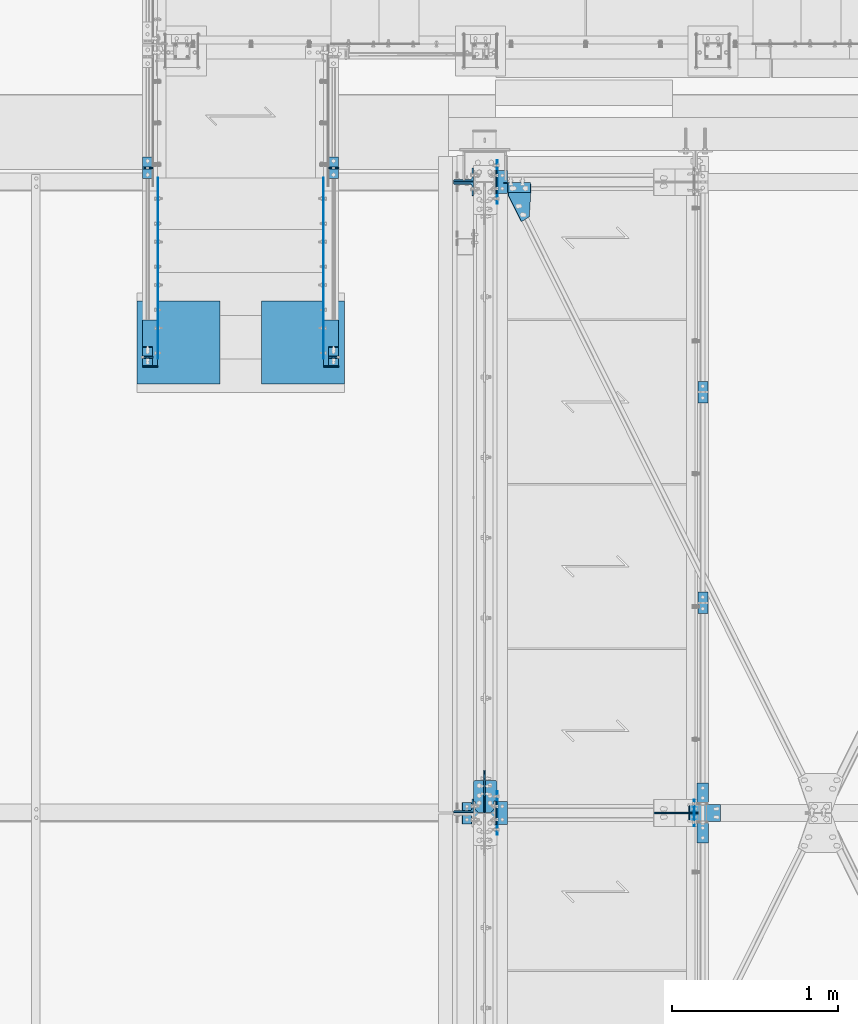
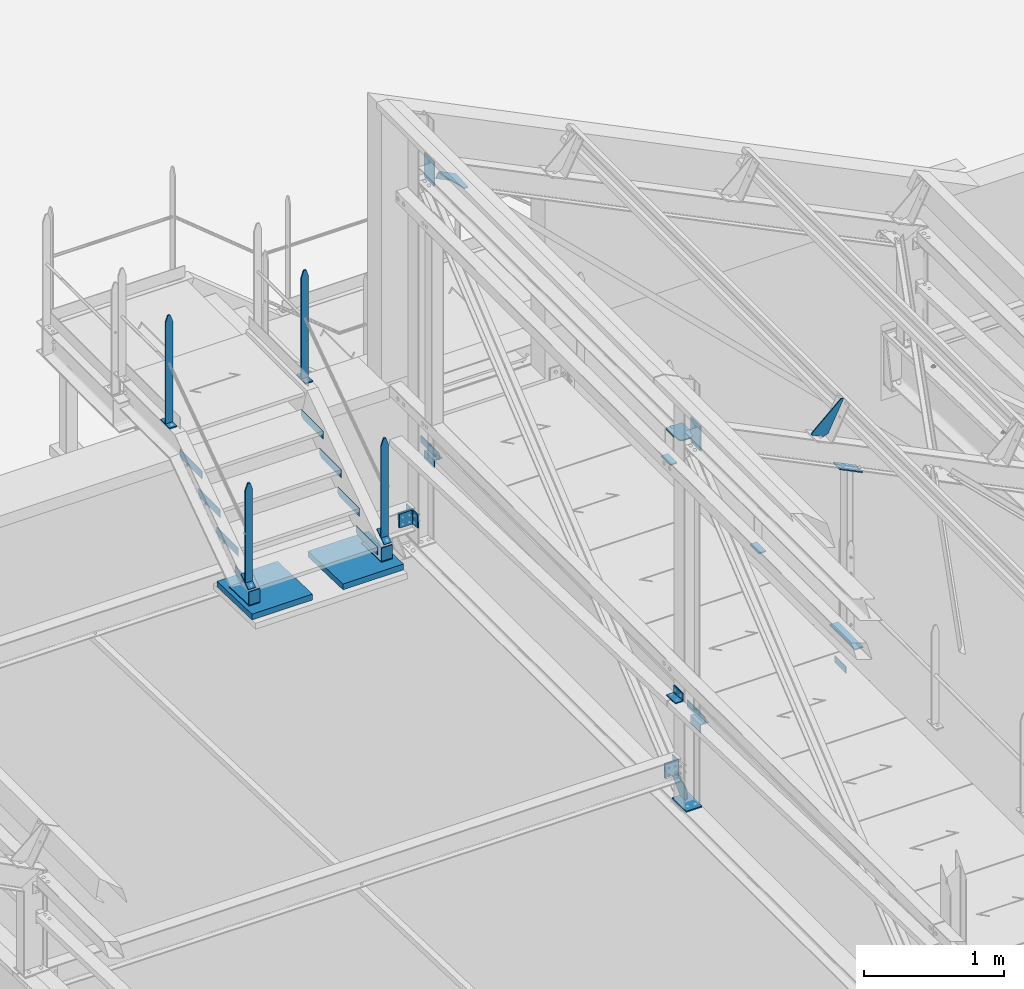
# One storey, part 111 of 362: 36 beams, 7 members, 26 elements without a shape of their own.
"""IFC2X3 building model written with IfcOpenShell, lengths in millimetres."""

from ifc_helpers import new_model, si_unit, frame, frame_2d, origin_with_axes, origin_2d_with_axis, place, context, subcontext, project, spatial, polyline, circle_curve, parameter, trimmed, segment, composite_curve, rectangle, l_section, outline, extrude, clip, halfspace, material, type_object, element, aggregate, save


model = new_model("IFC2X3")

# Units and contexts
model_context = context("Model", 3, precision=1e-05, world=origin_with_axes())
body_context = subcontext(model_context, "Body", "Model", "MODEL_VIEW")
ifc_project = project(units=[si_unit("LENGTHUNIT", "METRE", prefix="MILLI"), si_unit("AREAUNIT", "SQUARE_METRE"), si_unit("VOLUMEUNIT", "CUBIC_METRE"), si_unit("MASSUNIT", "GRAM", prefix="KILO"), si_unit("TIMEUNIT", "SECOND"), si_unit("PLANEANGLEUNIT", "RADIAN"), si_unit("SOLIDANGLEUNIT", "STERADIAN"), si_unit("THERMODYNAMICTEMPERATUREUNIT", "DEGREE_CELSIUS"), si_unit("LUMINOUSINTENSITYUNIT", "LUMEN")], contexts=[model_context])

# Site, building, storey
site_placement = place(None, origin_with_axes())
site = spatial("IfcSite", under=ifc_project, at=site_placement, Name="Undefined", CompositionType="ELEMENT")
building_placement = place(site_placement, origin_with_axes())
building = spatial("IfcBuilding", under=site, at=building_placement, Name="Undefined", CompositionType="ELEMENT")
storey_placement = place(building_placement, origin_with_axes())
storey = spatial("IfcBuildingStorey", under=building, at=storey_placement, Name="Undefined", CompositionType="ELEMENT", Elevation=0.0)

# Assembly, beams
assembly_1_placement = place(storey_placement, origin_with_axes())
assembly_1 = element("IfcElementAssembly", 1, at=assembly_1_placement, inside=storey, Name="MAIN COURANTE", AssemblyPlace="NOTDEFINED", PredefinedType="NOTDEFINED")
ifc_material_1 = material(Name="Undefined/S235-E24")
beam_type_1 = type_object("IfcBeamType", Name="PL10*60", PredefinedType="NOTDEFINED")
beam_1_placement = place(assembly_1_placement, frame((33369.9936634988, 15350.0038033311, 8915.0), z_axis=(1.0, 0.0, 0.0), x_axis=(0.0, -1.0, 0.0)))
beam_1 = element("IfcBeam", 2, at=beam_1_placement, type_object=beam_type_1, material=ifc_material_1, Name="PLATINE", ObjectType="PL10*60", context=body_context, shape_type="SweptSolid", body=[
    extrude(rectangle(XDim=10.0, YDim=60.0, at=origin_2d_with_axis()), frame((130.0, 0.0, 0.0), z_axis=(-1.0, 0.0, 0.0), x_axis=(0.0, -1.0, 0.0)), (0.0, 0.0, 1.0), 130.0),
])
beam_2_placement = place(assembly_1_placement, frame((33369.9937887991, 15285.0038033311, 9857.59999847), z_axis=(0.999999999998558, -1.69800000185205e-06, 0.0), x_axis=(0.0, 0.0, -1.0)))
beam_2 = element("IfcBeam", 3, at=beam_2_placement, type_object=beam_type_1, material=ifc_material_1, Name="MONTANT", ObjectType="PL10*60", context=body_context, shape_type="Clipping", body=[
    clip(clip(extrude(rectangle(XDim=10.0, YDim=60.0, at=origin_2d_with_axis()), frame((937.599998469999, 0.0, 0.0), z_axis=(-1.0, 0.0, 0.0), x_axis=(0.0, -1.0, 0.0)), (0.0, 0.0, 1.0), 937.6), halfspace(frame((-119.999937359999, 4.99999999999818, -30.0), z_axis=(-0.316227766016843, 1.98085072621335e-06, 0.948683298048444), x_axis=(0.948683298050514, 0.0, 0.316227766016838)), False)), halfspace(frame((60.0, 5.0, -30.0), z_axis=(-0.316227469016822, -1.98084886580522e-06, -0.948683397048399), x_axis=(-0.948683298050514, 0.0, 0.316227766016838)), False)),
])

assembly_2_placement = place(storey_placement, origin_with_axes())
assembly_2 = element("IfcElementAssembly", 4, at=assembly_2_placement, inside=storey, Name="MAIN COURANTE", AssemblyPlace="NOTDEFINED", PredefinedType="NOTDEFINED")
beam_3_placement = place(assembly_2_placement, frame((32249.9863365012, 15350.0038033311, 8915.0), z_axis=(-1.0, 0.0, 0.0), x_axis=(0.0, -1.0, 0.0)))
beam_3 = element("IfcBeam", 5, at=beam_3_placement, type_object=beam_type_1, material=ifc_material_1, Name="PLATINE", ObjectType="PL10*60", context=body_context, shape_type="SweptSolid", body=[
    extrude(rectangle(XDim=10.0, YDim=60.0, at=origin_2d_with_axis()), frame((130.0, 0.0, 0.0), z_axis=(-1.0, 0.0, 0.0), x_axis=(0.0, -1.0, 0.0)), (0.0, 0.0, 1.0), 130.0),
])
beam_4_placement = place(assembly_2_placement, frame((32249.9862112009, 15285.0038033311, 9857.59999847), z_axis=(-0.99999999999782, -2.08799999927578e-06, 0.0), x_axis=(0.0, 0.0, -1.0)))
beam_4 = element("IfcBeam", 6, at=beam_4_placement, type_object=beam_type_1, material=ifc_material_1, Name="MONTANT", ObjectType="PL10*60", context=body_context, shape_type="Clipping", body=[
    clip(clip(extrude(rectangle(XDim=10.0, YDim=60.0, at=origin_2d_with_axis()), frame((937.599998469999, 0.0, 0.0), z_axis=(-1.0, 0.0, 0.0), x_axis=(0.0, -1.0, 0.0)), (0.0, 0.0, 1.0), 937.6), halfspace(frame((-119.999937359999, -4.99999999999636, -30.0), z_axis=(-0.316227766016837, -1.98085072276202e-06, 0.948683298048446), x_axis=(-6.26399999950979e-06, 0.999999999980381, -3.63797880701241e-15)), False)), halfspace(frame((60.0, -5.0, -30.0), z_axis=(-0.316227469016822, 1.98084886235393e-06, -0.948683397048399), x_axis=(6.26399999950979e-06, 0.999999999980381, -3.63797880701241e-15)), False)),
])
beam_5_placement = place(assembly_2_placement, frame((32249.9862112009, 14144.9998536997, 9085.35366746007), z_axis=(-0.99999999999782, -2.08799999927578e-06, 0.0), x_axis=(0.0, 0.0, -1.0)))
beam_5 = element("IfcBeam", 7, at=beam_5_placement, type_object=beam_type_1, material=ifc_material_1, Name="MONTANT", ObjectType="PL10*60", context=body_context, shape_type="Clipping", body=[
    clip(clip(clip(clip(extrude(rectangle(XDim=10.0, YDim=60.0, at=origin_2d_with_axis()), frame((863.260305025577, 0.0, 0.0), z_axis=(-1.0, 0.0, 0.0), x_axis=(0.0, -1.0, 0.0)), (0.0, 0.0, 1.0), 870.25), halfspace(frame((-119.999937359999, -4.99999999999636, -30.0), z_axis=(-0.316227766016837, -1.98085072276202e-06, 0.948683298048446), x_axis=(-6.26399999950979e-06, 0.999999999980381, -3.63797880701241e-15)), False)), halfspace(frame((60.0, -5.0, -30.0), z_axis=(-0.316227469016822, 1.98084886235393e-06, -0.948683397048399), x_axis=(6.26399999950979e-06, 0.999999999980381, -3.63797880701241e-15)), False)), halfspace(frame((851.815615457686, -6.43113634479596, -0.000138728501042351), z_axis=(0.822192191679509, -0.569209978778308, -6.66011673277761e-07), x_axis=(0.569209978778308, 0.822192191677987, 1.71673729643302e-06)), False)), halfspace(frame((-7.87605918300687, -11.3765299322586, -0.000149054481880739), z_axis=(0.822192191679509, -0.569209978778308, -6.66011673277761e-07), x_axis=(0.569209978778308, 0.822192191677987, 1.71673729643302e-06)), True)),
])

# Beam
beam_6_placement = place(assembly_1_placement, frame((33369.9937887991, 14144.9998536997, 9085.35366746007), z_axis=(0.999999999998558, -1.69800000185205e-06, 0.0), x_axis=(0.0, 0.0, -1.0)))
beam_6 = element("IfcBeam", 8, at=beam_6_placement, type_object=beam_type_1, material=ifc_material_1, Name="MONTANT", ObjectType="PL10*60", context=body_context, shape_type="Clipping", body=[
    clip(clip(clip(clip(extrude(rectangle(XDim=10.0, YDim=60.0, at=origin_2d_with_axis()), frame((863.260305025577, 0.0, 0.0), z_axis=(-1.0, 0.0, 0.0), x_axis=(0.0, -1.0, 0.0)), (0.0, 0.0, 1.0), 870.25), halfspace(frame((-119.999937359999, 4.99999999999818, -30.0), z_axis=(-0.316227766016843, 1.98085072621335e-06, 0.948683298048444), x_axis=(0.948683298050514, 0.0, 0.316227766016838)), False)), halfspace(frame((60.0, 5.0, -30.0), z_axis=(-0.316227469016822, -1.98084886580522e-06, -0.948683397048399), x_axis=(-0.948683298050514, 0.0, 0.316227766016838)), False)), halfspace(frame((851.815615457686, 6.43113634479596, -0.000138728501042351), z_axis=(0.822192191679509, 0.569209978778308, -6.6601167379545e-07), x_axis=(0.0, -2.08799999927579e-06, -0.99999999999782)), False)), halfspace(frame((-7.87605918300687, 11.3765299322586, -0.000149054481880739), z_axis=(0.822192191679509, 0.569209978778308, -6.6601167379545e-07), x_axis=(0.0, -2.08799999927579e-06, -0.99999999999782)), True)),
])

# Assembly, beams
assembly_3_placement = place(storey_placement, origin_with_axes())
assembly_3 = element("IfcElementAssembly", 9, at=assembly_3_placement, inside=storey, Name="MAIN COURANTE", AssemblyPlace="NOTDEFINED", PredefinedType="NOTDEFINED")
beam_7_placement = place(assembly_3_placement, frame((35593.991720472, 12730.0034319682, 8245.00000008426), z_axis=(-1.0, 0.0, 0.0), x_axis=(0.0, -1.0, 0.0)))
beam_7 = element("IfcBeam", 10, at=beam_7_placement, type_object=beam_type_1, material=ifc_material_1, Name="PLATINE", ObjectType="PL10*60", context=body_context, shape_type="SweptSolid", body=[
    extrude(rectangle(XDim=10.0, YDim=60.0, at=origin_2d_with_axis()), frame((130.0, 0.0, 0.0), z_axis=(-1.0, 0.0, 0.0), x_axis=(0.0, -1.0, 0.0)), (0.0, 0.0, 1.0), 130.0),
])
beam_8_placement = place(assembly_3_placement, frame((35593.9917215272, 14000.0034319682, 8244.99999921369), z_axis=(-1.0, 0.0, 0.0), x_axis=(0.0, -1.0, 0.0)))
beam_8 = element("IfcBeam", 11, at=beam_8_placement, type_object=beam_type_1, material=ifc_material_1, Name="PLATINE", ObjectType="PL10*60", context=body_context, shape_type="SweptSolid", body=[
    extrude(rectangle(XDim=10.0, YDim=60.0, at=origin_2d_with_axis()), frame((130.0, 0.0, 0.0), z_axis=(-1.0, 0.0, 0.0), x_axis=(0.0, -1.0, 0.0)), (0.0, 0.0, 1.0), 130.0),
])
aggregate(assembly_3, [beam_7, beam_8])

# Member
member_type_1 = type_object("IfcMemberType", Name="PL10*60", PredefinedType="NOTDEFINED")
member_1_placement = place(assembly_2_placement, frame((32249.9863365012, 14205.3993570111, 8264.81946439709), z_axis=(-1.0, 0.0, 0.0), x_axis=(0.0, -0.822192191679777, -0.569209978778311)))
member_1 = element("IfcMember", 12, at=member_1_placement, type_object=member_type_1, material=ifc_material_1, Name="PLATINE", ObjectType="PL10*60", context=body_context, shape_type="SweptSolid", body=[
    extrude(rectangle(XDim=10.0, YDim=60.0, at=origin_2d_with_axis()), frame((130.0, 0.0, 0.0), z_axis=(-1.0, 0.0, 0.0), x_axis=(0.0, -1.0, 0.0)), (0.0, 0.0, 1.0), 130.0),
])

aggregate(assembly_2, [member_1, beam_3, beam_4, beam_5])

member_2_placement = place(assembly_1_placement, frame((33369.9936634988, 14205.3993570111, 8264.81946439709), z_axis=(1.0, 0.0, 0.0), x_axis=(0.0, -0.822192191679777, -0.569209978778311)))
member_2 = element("IfcMember", 13, at=member_2_placement, type_object=member_type_1, material=ifc_material_1, Name="PLATINE", ObjectType="PL10*60", context=body_context, shape_type="SweptSolid", body=[
    extrude(rectangle(XDim=10.0, YDim=60.0, at=origin_2d_with_axis()), frame((130.0, 0.0, 0.0), z_axis=(-1.0, 0.0, 0.0), x_axis=(0.0, -1.0, 0.0)), (0.0, 0.0, 1.0), 130.0),
])

aggregate(assembly_1, [beam_1, beam_2, member_2, beam_6])

# Assembly, beams
assembly_4_placement = place(storey_placement, origin_with_axes())
assembly_4 = element("IfcElementAssembly", 14, at=assembly_4_placement, inside=storey, Name="MARCHE", AssemblyPlace="NOTDEFINED", PredefinedType="NOTDEFINED")
beam_type_2 = type_object("IfcBeamType", Name="PL3*70", PredefinedType="NOTDEFINED")
beam_9_placement = place(assembly_4_placement, frame((32311.4947340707, 15224.9997910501, 8700.0), z_axis=(-1.0, 0.0, 0.0), x_axis=(0.0, 0.0, -1.0)))
beam_9 = element("IfcBeam", 15, at=beam_9_placement, type_object=beam_type_2, material=ifc_material_1, Name="PLAT MARCHE", ObjectType="PL3*70", context=body_context, shape_type="SweptSolid", body=[
    extrude(outline(polyline([(0.0, 0.0), (50.0, 0.0), (70.0, 30.0), (70.0, 310.0), (0.0, 310.0), (0.0, 0.0)])), frame((0.0, 0.0, -1.5), z_axis=(0.0, 0.0, 1.0), x_axis=(1.0, 0.0, 0.0)), (0.0, 0.0, 1.0), 3.0),
])
beam_10_placement = place(assembly_4_placement, frame((33308.4947340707, 15224.9997910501, 8700.0), z_axis=(-1.0, 0.0, 0.0), x_axis=(0.0, 0.0, -1.0)))
beam_10 = element("IfcBeam", 16, at=beam_10_placement, type_object=beam_type_2, material=ifc_material_1, Name="PLAT MARCHE", ObjectType="PL3*70", context=body_context, shape_type="SweptSolid", body=[
    extrude(outline(polyline([(0.0, 0.0), (50.0, 0.0), (70.0, 30.0), (70.0, 310.0), (0.0, 310.0), (0.0, 0.0)])), frame((0.0, 0.0, -1.5), z_axis=(0.0, 0.0, 1.0), x_axis=(1.0, 0.0, 0.0)), (0.0, 0.0, 1.0), 3.0),
])
aggregate(assembly_4, [beam_9, beam_10])

assembly_5_placement = place(storey_placement, origin_with_axes())
assembly_5 = element("IfcElementAssembly", 17, at=assembly_5_placement, inside=storey, Name="MARCHE", AssemblyPlace="NOTDEFINED", PredefinedType="NOTDEFINED")
beam_11_placement = place(assembly_5_placement, frame((32311.4947340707, 14964.9997910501, 8520.00000004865), z_axis=(-1.0, 0.0, 0.0), x_axis=(0.0, 0.0, -1.0)))
beam_11 = element("IfcBeam", 18, at=beam_11_placement, type_object=beam_type_2, material=ifc_material_1, Name="PLAT MARCHE", ObjectType="PL3*70", context=body_context, shape_type="SweptSolid", body=[
    extrude(outline(polyline([(0.0, 0.0), (50.0, 0.0), (70.0, 30.0), (70.0, 310.0), (0.0, 310.0), (0.0, 0.0)])), frame((0.0, 0.0, -1.5), z_axis=(0.0, 0.0, 1.0), x_axis=(1.0, 0.0, 0.0)), (0.0, 0.0, 1.0), 3.0),
])
beam_12_placement = place(assembly_5_placement, frame((33308.4947340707, 14964.9997910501, 8520.00000004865), z_axis=(-1.0, 0.0, 0.0), x_axis=(0.0, 0.0, -1.0)))
beam_12 = element("IfcBeam", 19, at=beam_12_placement, type_object=beam_type_2, material=ifc_material_1, Name="PLAT MARCHE", ObjectType="PL3*70", context=body_context, shape_type="SweptSolid", body=[
    extrude(outline(polyline([(0.0, 0.0), (50.0, 0.0), (70.0, 30.0), (70.0, 310.0), (0.0, 310.0), (0.0, 0.0)])), frame((0.0, 0.0, -1.5), z_axis=(0.0, 0.0, 1.0), x_axis=(1.0, 0.0, 0.0)), (0.0, 0.0, 1.0), 3.0),
])
aggregate(assembly_5, [beam_11, beam_12])

assembly_6_placement = place(storey_placement, origin_with_axes())
assembly_6 = element("IfcElementAssembly", 20, at=assembly_6_placement, inside=storey, Name="MARCHE", AssemblyPlace="NOTDEFINED", PredefinedType="NOTDEFINED")
beam_13_placement = place(assembly_6_placement, frame((32311.4947340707, 14704.9997910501, 8340.00000007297), z_axis=(-1.0, 0.0, 0.0), x_axis=(0.0, 0.0, -1.0)))
beam_13 = element("IfcBeam", 21, at=beam_13_placement, type_object=beam_type_2, material=ifc_material_1, Name="PLAT MARCHE", ObjectType="PL3*70", context=body_context, shape_type="SweptSolid", body=[
    extrude(outline(polyline([(0.0, 0.0), (50.0, 0.0), (70.0, 30.0), (70.0, 310.0), (0.0, 310.0), (0.0, 0.0)])), frame((0.0, 0.0, -1.5), z_axis=(0.0, 0.0, 1.0), x_axis=(1.0, 0.0, 0.0)), (0.0, 0.0, 1.0), 3.0),
])
beam_14_placement = place(assembly_6_placement, frame((33308.4947340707, 14704.9997910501, 8340.00000007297), z_axis=(-1.0, 0.0, 0.0), x_axis=(0.0, 0.0, -1.0)))
beam_14 = element("IfcBeam", 22, at=beam_14_placement, type_object=beam_type_2, material=ifc_material_1, Name="PLAT MARCHE", ObjectType="PL3*70", context=body_context, shape_type="SweptSolid", body=[
    extrude(outline(polyline([(0.0, 0.0), (50.0, 0.0), (70.0, 30.0), (70.0, 310.0), (0.0, 310.0), (0.0, 0.0)])), frame((0.0, 0.0, -1.5), z_axis=(0.0, 0.0, 1.0), x_axis=(1.0, 0.0, 0.0)), (0.0, 0.0, 1.0), 3.0),
])
aggregate(assembly_6, [beam_13, beam_14])

assembly_7_placement = place(storey_placement, origin_with_axes())
assembly_7 = element("IfcElementAssembly", 23, at=assembly_7_placement, inside=storey, Name="MARCHE", AssemblyPlace="NOTDEFINED", PredefinedType="NOTDEFINED")
beam_15_placement = place(assembly_7_placement, frame((32311.4947340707, 14444.9997910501, 8160.0000000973), z_axis=(-1.0, 0.0, 0.0), x_axis=(0.0, 0.0, -1.0)))
beam_15 = element("IfcBeam", 24, at=beam_15_placement, type_object=beam_type_2, material=ifc_material_1, Name="PLAT MARCHE", ObjectType="PL3*70", context=body_context, shape_type="SweptSolid", body=[
    extrude(outline(polyline([(0.0, 0.0), (50.0, 0.0), (70.0, 30.0), (70.0, 310.0), (0.0, 310.0), (0.0, 0.0)])), frame((0.0, 0.0, -1.5), z_axis=(0.0, 0.0, 1.0), x_axis=(1.0, 0.0, 0.0)), (0.0, 0.0, 1.0), 3.0),
])
beam_16_placement = place(assembly_7_placement, frame((33308.4947340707, 14444.9997910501, 8160.0000000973), z_axis=(-1.0, 0.0, 0.0), x_axis=(0.0, 0.0, -1.0)))
beam_16 = element("IfcBeam", 25, at=beam_16_placement, type_object=beam_type_2, material=ifc_material_1, Name="PLAT MARCHE", ObjectType="PL3*70", context=body_context, shape_type="SweptSolid", body=[
    extrude(outline(polyline([(0.0, 0.0), (50.0, 0.0), (70.0, 30.0), (70.0, 310.0), (0.0, 310.0), (0.0, 0.0)])), frame((0.0, 0.0, -1.5), z_axis=(0.0, 0.0, 1.0), x_axis=(1.0, 0.0, 0.0)), (0.0, 0.0, 1.0), 3.0),
])
aggregate(assembly_7, [beam_15, beam_16])

assembly_8_placement = place(storey_placement, origin_with_axes())
assembly_8 = element("IfcElementAssembly", 26, at=assembly_8_placement, inside=storey, AssemblyPlace="NOTDEFINED", PredefinedType="NOTDEFINED")
beam_type_3 = type_object("IfcBeamType", Name="PL8*90", PredefinedType="NOTDEFINED")
beam_17_placement = place(assembly_8_placement, frame((33354.9938754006, 14370.1040990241, 8052.62545207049), z_axis=(1.0, 0.0, 0.0), x_axis=(0.0, -0.999506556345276, 0.031410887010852)))
beam_17 = element("IfcBeam", 27, at=beam_17_placement, type_object=beam_type_3, material=ifc_material_1, Name="PLAT LIMON", ObjectType="PL8*90", context=body_context, shape_type="SweptSolid", body=[
    extrude(rectangle(XDim=8.0, YDim=90.0, at=origin_2d_with_axis()), frame((285.370765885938, 0.0, 0.0), z_axis=(-1.0, 0.0, 0.0), x_axis=(0.0, -1.0, 0.0)), (0.0, 0.0, 1.0), 285.37),
])
beam_18_placement = place(assembly_8_placement, frame((33354.9938754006, 14088.9997910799, 8180.92307703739), z_axis=(1.0, 0.0, 0.0), x_axis=(0.0, 0.0, -1.0)))
beam_18 = element("IfcBeam", 28, at=beam_18_placement, type_object=beam_type_3, material=ifc_material_1, Name="PLAT LIMON", ObjectType="PL8*90", context=body_context, shape_type="SweptSolid", body=[
    extrude(rectangle(XDim=8.0, YDim=90.0, at=origin_2d_with_axis()), frame((114.997260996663, 0.0, 0.0), z_axis=(-1.0, 0.0, 0.0), x_axis=(0.0, -1.0, 0.0)), (0.0, 0.0, 1.0), 115.0),
])
aggregate(assembly_8, [beam_17, beam_18])

assembly_9_placement = place(storey_placement, origin_with_axes())
assembly_9 = element("IfcElementAssembly", 29, at=assembly_9_placement, inside=storey, AssemblyPlace="NOTDEFINED", PredefinedType="NOTDEFINED")
beam_19_placement = place(assembly_9_placement, frame((32265.0061245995, 14370.1040990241, 8052.62545207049), z_axis=(-1.0, 0.0, 0.0), x_axis=(0.0, -0.999506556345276, 0.031410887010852)))
beam_19 = element("IfcBeam", 30, at=beam_19_placement, type_object=beam_type_3, material=ifc_material_1, Name="PLAT LIMON", ObjectType="PL8*90", context=body_context, shape_type="SweptSolid", body=[
    extrude(rectangle(XDim=8.0, YDim=90.0, at=origin_2d_with_axis()), frame((285.370765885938, 0.0, 0.0), z_axis=(-1.0, 0.0, 0.0), x_axis=(0.0, -1.0, 0.0)), (0.0, 0.0, 1.0), 285.37),
])
beam_20_placement = place(assembly_9_placement, frame((32265.0061245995, 14088.9997910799, 8180.92307703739), z_axis=(-1.0, 0.0, 0.0), x_axis=(0.0, 0.0, -1.0)))
beam_20 = element("IfcBeam", 31, at=beam_20_placement, type_object=beam_type_3, material=ifc_material_1, Name="PLAT LIMON", ObjectType="PL8*90", context=body_context, shape_type="SweptSolid", body=[
    extrude(rectangle(XDim=8.0, YDim=90.0, at=origin_2d_with_axis()), frame((114.997260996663, 0.0, 0.0), z_axis=(-1.0, 0.0, 0.0), x_axis=(0.0, -1.0, 0.0)), (0.0, 0.0, 1.0), 115.0),
])
aggregate(assembly_9, [beam_19, beam_20])

# Assembly, beam
assembly_10_placement = place(storey_placement, origin_with_axes())
assembly_10 = element("IfcElementAssembly", 32, at=assembly_10_placement, inside=storey, Name="DALLE SUR PLOT", AssemblyPlace="NOTDEFINED", PredefinedType="REINFORCEMENT_UNIT")
ifc_material_2 = material(Name="CONCRETE/BETON")
beam_type_4 = type_object("IfcBeamType", Name="PL50*500", PredefinedType="NOTDEFINED")
beam_21_placement = place(assembly_10_placement, frame((32434.9947340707, 14483.7658543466, 8020.03915601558), z_axis=(-1.0, 0.0, 0.0), x_axis=(0.0, -0.999506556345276, 0.031410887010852)))
beam_21 = element("IfcBeam", 33, at=beam_21_placement, type_object=beam_type_4, material=ifc_material_2, Name="DALLE SUR PLOT", ObjectType="PL50*500", context=body_context, shape_type="SweptSolid", body=[
    extrude(rectangle(XDim=50.0, YDim=500.0, at=origin_2d_with_axis()), frame((500.000000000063, 0.0, 0.0), z_axis=(-1.0, 0.0, 0.0), x_axis=(0.0, -1.0, 0.0)), (0.0, 0.0, 1.0), 500.0),
])
aggregate(assembly_10, [beam_21])

assembly_11_placement = place(storey_placement, origin_with_axes())
assembly_11 = element("IfcElementAssembly", 34, at=assembly_11_placement, inside=storey, Name="DALLE SUR PLOT", AssemblyPlace="NOTDEFINED", PredefinedType="REINFORCEMENT_UNIT")
beam_22_placement = place(assembly_11_placement, frame((33184.9947340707, 14483.7658543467, 8020.03915601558), z_axis=(-1.0, 0.0, 0.0), x_axis=(0.0, -0.999506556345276, 0.031410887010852)))
beam_22 = element("IfcBeam", 35, at=beam_22_placement, type_object=beam_type_4, material=ifc_material_2, Name="DALLE SUR PLOT", ObjectType="PL50*500", context=body_context, shape_type="SweptSolid", body=[
    extrude(rectangle(XDim=50.0, YDim=500.0, at=origin_2d_with_axis()), frame((500.000000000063, 0.0, 0.0), z_axis=(-1.0, 0.0, 0.0), x_axis=(0.0, -1.0, 0.0)), (0.0, 0.0, 1.0), 500.0),
])
aggregate(assembly_11, [beam_22])

assembly_12_placement = place(storey_placement, origin_with_axes())
assembly_12 = element("IfcElementAssembly", 36, at=assembly_12_placement, inside=storey, AssemblyPlace="NOTDEFINED", PredefinedType="NOTDEFINED")
beam_type_5 = type_object("IfcBeamType", Name="L70*7", PredefinedType="NOTDEFINED")
beam_23_placement = place(assembly_12_placement, frame((34381.5000576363, 15130.0, 7915.0), z_axis=(1.0, 0.0, 0.0), x_axis=(0.0, 1.0, 0.0)))
beam_23 = element("IfcBeam", 37, at=beam_23_placement, type_object=beam_type_5, material=ifc_material_1, Name="ATTACHE", ObjectType="L70*7", context=body_context, shape_type="SweptSolid", body=[
    extrude(l_section(Depth=70.0, Width=70.0, Thickness=7.0, FilletRadius=9.0, EdgeRadius=4.5, at=origin_2d_with_axis()), frame((140.0, 0.0, 0.0), z_axis=(-1.0, 0.0, 0.0), x_axis=(0.0, -1.0, 0.0)), (0.0, 0.0, 1.0), 140.0),
])
aggregate(assembly_12, [beam_23])

assembly_13_placement = place(storey_placement, origin_with_axes())
assembly_13 = element("IfcElementAssembly", 38, at=assembly_13_placement, inside=storey, AssemblyPlace="NOTDEFINED", PredefinedType="NOTDEFINED")
beam_24_placement = place(assembly_13_placement, frame((34381.5000576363, 11330.0, 7915.0), z_axis=(1.0, 0.0, 0.0), x_axis=(0.0, 1.0, 0.0)))
beam_24 = element("IfcBeam", 39, at=beam_24_placement, type_object=beam_type_5, material=ifc_material_1, Name="ATTACHE", ObjectType="L70*7", context=body_context, shape_type="SweptSolid", body=[
    extrude(l_section(Depth=70.0, Width=70.0, Thickness=7.0, FilletRadius=9.0, EdgeRadius=4.5, at=origin_2d_with_axis()), frame((140.0, 0.0, 0.0), z_axis=(-1.0, 0.0, 0.0), x_axis=(0.0, -1.0, 0.0)), (0.0, 0.0, 1.0), 140.0),
])
aggregate(assembly_13, [beam_24])

assembly_14_placement = place(storey_placement, origin_with_axes())
assembly_14 = element("IfcElementAssembly", 40, at=assembly_14_placement, inside=storey, AssemblyPlace="NOTDEFINED", PredefinedType="NOTDEFINED")
beam_25_placement = place(assembly_14_placement, frame((34178.5001163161, 11464.8129140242, 8229.98135168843), z_axis=(0.0, 0.0314135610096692, 0.999506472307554), x_axis=(0.0, -0.999506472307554, 0.031413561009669)))
beam_25 = element("IfcBeam", 41, at=beam_25_placement, type_object=beam_type_5, material=ifc_material_1, Name="ATTACHE", ObjectType="L70*7", context=body_context, shape_type="SweptSolid", body=[
    extrude(l_section(Depth=70.0, Width=70.0, Thickness=7.0, FilletRadius=9.0, EdgeRadius=4.5, at=origin_2d_with_axis()), frame((130.004127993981, 0.0, 9.02084851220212e-16), z_axis=(-1.0, 0.0, 0.0), x_axis=(0.0, -1.0, 0.0)), (0.0, 0.0, 1.0), 130.0),
])
aggregate(assembly_14, [beam_25])

# Assembly, member
assembly_15_placement = place(storey_placement, origin_with_axes())
assembly_15 = element("IfcElementAssembly", 42, at=assembly_15_placement, inside=storey, AssemblyPlace="NOTDEFINED", PredefinedType="NOTDEFINED")
member_type_2 = type_object("IfcMemberType", Name="L60*6", PredefinedType="NOTDEFINED")
member_3_placement = place(assembly_15_placement, frame((34407.7039823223, 15167.0004268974, 10376.0796849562), z_axis=(0.0, -1.0, 0.0), x_axis=(0.897398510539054, 0.0, -0.44122093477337)))
member_3 = element("IfcMember", 43, at=member_3_placement, type_object=member_type_2, material=ifc_material_1, Name="ATTACHE", ObjectType="L60*6", context=body_context, shape_type="SweptSolid", body=[
    extrude(l_section(Depth=60.0, Width=60.0, Thickness=6.0, FilletRadius=8.0, EdgeRadius=4.0, at=origin_2d_with_axis()), frame((150.0, 0.0, 0.0), z_axis=(-1.0, 0.0, 0.0), x_axis=(0.0, -1.0, 0.0)), (0.0, 0.0, 1.0), 150.0),
])
aggregate(assembly_15, [member_3])

# Assembly, beam
assembly_16_placement = place(storey_placement, origin_with_axes())
assembly_16 = element("IfcElementAssembly", 44, at=assembly_16_placement, inside=storey, Name="PANNE SHED", AssemblyPlace="NOTDEFINED", PredefinedType="NOTDEFINED")
beam_type_6 = type_object("IfcBeamType", Name="TOLE8*140", PredefinedType="NOTDEFINED")
beam_26_placement = place(assembly_16_placement, frame((35310.1044072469, 11400.0, 10117.3786897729), z_axis=(0.0, -1.0, 0.0), x_axis=(-0.441220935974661, 0.0, -0.89739850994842)))
beam_26 = element("IfcBeam", 45, at=beam_26_placement, type_object=beam_type_6, material=ifc_material_1, Name="RAIDISSEUR", ObjectType="TOLE8*140", context=body_context, shape_type="SweptSolid", body=[
    extrude(outline(polyline([(0.0, 0.0), (19.9999999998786, -3.63797880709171e-12), (20.0000000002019, 109.999999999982), (-9.99999999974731, 139.99998998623), (-300.0000000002, 139.999893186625), (-300.000000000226, 119.999893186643), (0.0, 0.0)])), frame((0.0, 0.0, -4.0), z_axis=(0.0, 0.0, 1.0), x_axis=(1.0, 0.0, 0.0)), (0.0, 0.0, 1.0), 8.0),
])
aggregate(assembly_16, [beam_26])

assembly_17_placement = place(storey_placement, origin_with_axes())
assembly_17 = element("IfcElementAssembly", 46, at=assembly_17_placement, inside=storey, Name="MONTANT", AssemblyPlace="NOTDEFINED", PredefinedType="NOTDEFINED")
beam_type_7 = type_object("IfcBeamType", Name="PL10*133", PredefinedType="NOTDEFINED")
beam_27_placement = place(assembly_17_placement, frame((34280.0, 11500.0, 7255.0), z_axis=(1.0, 0.0, 0.0), x_axis=(0.0, -1.0, 0.0)))
beam_27 = element("IfcBeam", 47, at=beam_27_placement, type_object=beam_type_7, material=ifc_material_1, Name="PLATINE", ObjectType="PL10*133", context=body_context, shape_type="SweptSolid", body=[
    extrude(rectangle(XDim=10.0, YDim=133.0, at=origin_2d_with_axis()), frame((200.0, 0.0, 0.0), z_axis=(-1.0, 0.0, 0.0), x_axis=(0.0, -1.0, 0.0)), (0.0, 0.0, 1.0), 200.0),
])

# Assembly, member
assembly_18_placement = place(storey_placement, origin_with_axes())
assembly_18 = element("IfcElementAssembly", 48, at=assembly_18_placement, inside=storey, AssemblyPlace="NOTDEFINED", PredefinedType="NOTDEFINED")
member_type_3 = type_object("IfcMemberType", Name="PL10*100", PredefinedType="NOTDEFINED")
member_4_placement = place(assembly_18_placement, frame((35511.0197434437, 11400.0000000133, 9756.72720417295), z_axis=(0.0, -1.0, 0.0), x_axis=(0.897398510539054, 0.0, -0.44122093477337)))
member_4 = element("IfcMember", 49, at=member_4_placement, type_object=member_type_3, material=ifc_material_1, Name="PLATINE", ObjectType="PL10*100", context=body_context, shape_type="SweptSolid", body=[
    extrude(rectangle(XDim=10.0, YDim=100.0, at=origin_2d_with_axis()), frame((210.000000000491, 0.0, 1.81898940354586e-12), z_axis=(-1.0, 0.0, 0.0), x_axis=(0.0, -1.0, 0.0)), (0.0, 0.0, 1.0), 210.0),
])

# Assembly, beam
assembly_19_placement = place(storey_placement, origin_with_axes())
assembly_19 = element("IfcElementAssembly", 50, at=assembly_19_placement, inside=storey, AssemblyPlace="NOTDEFINED", PredefinedType="NOTDEFINED")
beam_type_8 = type_object("IfcBeamType", Name="TOLE6*60", PredefinedType="NOTDEFINED")
beam_28_placement = place(assembly_19_placement, frame((35542.9917140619, 11320.0, 7985.0), z_axis=(-1.0, 0.0, 0.0), x_axis=(0.0, 0.0, 1.0)))
beam_28 = element("IfcBeam", 51, at=beam_28_placement, type_object=beam_type_8, material=ifc_material_1, Name="PLATINE", ObjectType="TOLE6*60", context=body_context, shape_type="SweptSolid", body=[
    extrude(outline(polyline([(0.0, 0.0), (60.0, 0.0), (60.0, 159.999984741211), (0.0, 159.999984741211), (0.0, 0.0)])), frame((0.0, 0.0, -3.0), z_axis=(0.0, 0.0, 1.0), x_axis=(1.0, 0.0, 0.0)), (0.0, 0.0, 1.0), 6.0),
])

assembly_20_placement = place(storey_placement, origin_with_axes())
assembly_20 = element("IfcElementAssembly", 52, at=assembly_20_placement, inside=storey, AssemblyPlace="NOTDEFINED", PredefinedType="NOTDEFINED")
beam_29_placement = place(assembly_20_placement, frame((34354.991943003, 15070.0, 7985.0), z_axis=(-1.0, 0.0, 0.0), x_axis=(0.0, 0.0, 1.0)))
beam_29 = element("IfcBeam", 53, at=beam_29_placement, type_object=beam_type_8, material=ifc_material_1, Name="PLATINE", ObjectType="TOLE6*60", context=body_context, shape_type="SweptSolid", body=[
    extrude(outline(polyline([(0.0, 0.0), (60.0, 0.0), (60.0, 260.0), (0.0, 260.0), (0.0, 0.0)])), frame((0.0, 0.0, -3.0), z_axis=(0.0, 0.0, 1.0), x_axis=(1.0, 0.0, 0.0)), (0.0, 0.0, 1.0), 6.0),
])
aggregate(assembly_20, [beam_29])

# Beam
beam_30_placement = place(assembly_19_placement, frame((34354.991943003, 11270.0, 7985.0), z_axis=(-1.0, 0.0, 0.0), x_axis=(0.0, 0.0, 1.0)))
beam_30 = element("IfcBeam", 54, at=beam_30_placement, type_object=beam_type_8, material=ifc_material_1, Name="PLATINE", ObjectType="TOLE6*60", context=body_context, shape_type="SweptSolid", body=[
    extrude(outline(polyline([(0.0, 0.0), (60.0, 0.0), (60.0, 260.0), (0.0, 260.0), (0.0, 0.0)])), frame((0.0, 0.0, -3.0), z_axis=(0.0, 0.0, 1.0), x_axis=(1.0, 0.0, 0.0)), (0.0, 0.0, 1.0), 6.0),
])

aggregate(assembly_19, [beam_28, beam_30])

beam_type_9 = type_object("IfcBeamType", Name="PL10*70", PredefinedType="NOTDEFINED")
beam_31_placement = place(assembly_18_placement, frame((35593.9917140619, 11580.0001061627, 8245.00000367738), z_axis=(1.0, 0.0, 0.0), x_axis=(0.0, -1.0, 0.0)))
beam_31 = element("IfcBeam", 55, at=beam_31_placement, type_object=beam_type_9, material=ifc_material_1, Name="PLATINE", ObjectType="PL10*70", context=body_context, shape_type="SweptSolid", body=[
    extrude(rectangle(XDim=10.0, YDim=70.0, at=origin_2d_with_axis()), frame((360.000000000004, 0.0, 0.0), z_axis=(-1.0, 0.0, 0.0), x_axis=(0.0, -1.0, 0.0)), (0.0, 0.0, 1.0), 360.0),
])

aggregate(assembly_18, [member_4, beam_31])

# Assembly, beam
assembly_21_placement = place(storey_placement, origin_with_axes())
assembly_21 = element("IfcElementAssembly", 56, at=assembly_21_placement, inside=storey, Name="TRAVERSE SHED", AssemblyPlace="NOTDEFINED", PredefinedType="NOTDEFINED")
beam_type_10 = type_object("IfcBeamType", Name="PL10*140", PredefinedType="NOTDEFINED")
beam_32_placement = place(assembly_21_placement, frame((34351.5, 15200.0, 10548.0682550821), z_axis=(0.0, -1.0, 0.0), x_axis=(0.0, 0.0, -1.0)))
beam_32 = element("IfcBeam", 57, at=beam_32_placement, type_object=beam_type_10, material=ifc_material_1, Name="PLATINE", ObjectType="PL10*140", context=body_context, shape_type="SweptSolid", body=[
    extrude(rectangle(XDim=10.0, YDim=140.0, at=origin_2d_with_axis()), frame((213.394604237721, 0.0, 0.0), z_axis=(-1.0, 0.0, 0.0), x_axis=(0.0, -1.0, 0.0)), (0.0, 0.0, 1.0), 213.39),
])
aggregate(assembly_21, [beam_32])

assembly_22_placement = place(storey_placement, origin_with_axes())
assembly_22 = element("IfcElementAssembly", 58, at=assembly_22_placement, inside=storey, Name="TRAVERSE SHED", AssemblyPlace="NOTDEFINED", PredefinedType="NOTDEFINED")
beam_33_placement = place(assembly_22_placement, frame((34351.5, 11400.0, 10548.0682550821), z_axis=(0.0, -1.0, 0.0), x_axis=(0.0, 0.0, -1.0)))
beam_33 = element("IfcBeam", 59, at=beam_33_placement, type_object=beam_type_10, material=ifc_material_1, Name="PLATINE", ObjectType="PL10*140", context=body_context, shape_type="SweptSolid", body=[
    extrude(rectangle(XDim=10.0, YDim=140.0, at=origin_2d_with_axis()), frame((213.394604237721, 0.0, 0.0), z_axis=(-1.0, 0.0, 0.0), x_axis=(0.0, -1.0, 0.0)), (0.0, 0.0, 1.0), 213.39),
])
aggregate(assembly_22, [beam_33])

assembly_23_placement = place(storey_placement, origin_with_axes())
assembly_23 = element("IfcElementAssembly", 60, at=assembly_23_placement, inside=storey, AssemblyPlace="NOTDEFINED", PredefinedType="NOTDEFINED")
beam_type_11 = type_object("IfcBeamType", Name="TOLE6*164", PredefinedType="NOTDEFINED")
beam_34_placement = place(assembly_23_placement, frame((34548.1682092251, 14990.7417182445, 10343.7911110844), z_axis=(-0.441220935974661, 0.0, -0.89739850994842), x_axis=(-0.78486955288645, -0.48483570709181, 0.385893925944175)))
beam_34 = element("IfcBeam", 61, at=beam_34_placement, type_object=beam_type_11, material=ifc_material_1, Name="GOUSSET", ObjectType="TOLE6*164", context=body_context, shape_type="SweptSolid", body=[
    extrude(outline(polyline([(0.0, 0.0), (60.0, 0.0), (60.000000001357, 181.13842773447), (27.5527534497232, 239.6707305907), (-103.638031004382, 166.945343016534), (-79.3962478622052, 123.215103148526), (0.0, 0.0)])), frame((0.0, 0.0, -3.0), z_axis=(0.0, 0.0, 1.0), x_axis=(1.0, 0.0, 0.0)), (0.0, 0.0, 1.0), 6.0),
])
aggregate(assembly_23, [beam_34])

# Assembly, member
assembly_24_placement = place(storey_placement, origin_with_axes())
assembly_24 = element("IfcElementAssembly", 62, at=assembly_24_placement, inside=storey, AssemblyPlace="NOTDEFINED", PredefinedType="NOTDEFINED")
member_type_4 = type_object("IfcMemberType", Name="L120*80*10", PredefinedType="NOTDEFINED")
member_5_placement = place(assembly_24_placement, frame((34153.5000000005, 15244.8642482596, 7530.88751296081), z_axis=(-1.0, 0.0, 0.0), x_axis=(-1.05403257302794e-09, -0.0314112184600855, -0.999506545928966)))
member_5 = element("IfcMember", 63, at=member_5_placement, type_object=member_type_4, material=ifc_material_1, Name="ATTACHE", ObjectType="L120*80*10", context=body_context, shape_type="SweptSolid", body=[
    extrude(l_section(Depth=120.0, Width=80.0, Thickness=10.0, FilletRadius=11.0, EdgeRadius=5.5, at=origin_2d_with_axis()), frame((120.0, 0.0, 0.0), z_axis=(-1.0, 0.0, 0.0), x_axis=(0.0, -1.0, 0.0)), (0.0, 0.0, 1.0), 120.0),
])
aggregate(assembly_24, [member_5])

assembly_25_placement = place(storey_placement, origin_with_axes())
assembly_25 = element("IfcElementAssembly", 64, at=assembly_25_placement, inside=storey, AssemblyPlace="NOTDEFINED", PredefinedType="NOTDEFINED")
member_6_placement = place(assembly_25_placement, frame((34153.5000000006, 15155.1364772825, 7413.64811928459), z_axis=(-1.0, 0.0, 0.0), x_axis=(7.58071938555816e-11, 0.0314107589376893, 0.999506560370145)))
member_6 = element("IfcMember", 65, at=member_6_placement, type_object=member_type_4, material=ifc_material_1, Name="ATTACHE", ObjectType="L120*80*10", context=body_context, shape_type="SweptSolid", body=[
    extrude(l_section(Depth=120.0, Width=80.0, Thickness=10.0, FilletRadius=11.0, EdgeRadius=5.5, at=origin_2d_with_axis()), frame((120.0, 0.0, 0.0), z_axis=(-1.0, 0.0, 0.0), x_axis=(0.0, -1.0, 0.0)), (0.0, 0.0, 1.0), 120.0),
])
aggregate(assembly_25, [member_6])

assembly_26_placement = place(storey_placement, origin_with_axes())
assembly_26 = element("IfcElementAssembly", 66, at=assembly_26_placement, inside=storey, AssemblyPlace="NOTDEFINED", PredefinedType="NOTDEFINED")
member_7_placement = place(assembly_26_placement, frame((34153.5000000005, 11444.8643025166, 7650.30906880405), z_axis=(-1.0, 0.0, 0.0), x_axis=(-1.05403257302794e-09, -0.0314112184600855, -0.999506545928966)))
member_7 = element("IfcMember", 67, at=member_7_placement, type_object=member_type_4, material=ifc_material_1, Name="ATTACHE", ObjectType="L120*80*10", context=body_context, shape_type="SweptSolid", body=[
    extrude(l_section(Depth=120.0, Width=80.0, Thickness=10.0, FilletRadius=11.0, EdgeRadius=5.5, at=origin_2d_with_axis()), frame((120.0, 0.0, 0.0), z_axis=(-1.0, 0.0, 0.0), x_axis=(0.0, -1.0, 0.0)), (0.0, 0.0, 1.0), 120.0),
])
aggregate(assembly_26, [member_7])

# Beam
beam_type_12 = type_object("IfcBeamType", Name="TOLE8*135", PredefinedType="NOTDEFINED")
beam_35_placement = place(assembly_17_placement, frame((34280.0, 11500.0, 7260.0), z_axis=(-1.0, 0.0, 0.0), x_axis=(0.0, -1.0, 0.0)))
beam_35 = element("IfcBeam", 68, at=beam_35_placement, type_object=beam_type_12, material=ifc_material_1, Name="GOUSSET", ObjectType="TOLE8*135", context=body_context, shape_type="SweptSolid", body=[
    extrude(outline(polyline([(0.0, 0.0), (77.25, 0.0), (97.25, 20.0), (97.25, 100.0), (-104.639953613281, 212.985397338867), (-155.915084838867, 151.578063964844), (0.0, 0.0)])), frame((0.0, 0.0, -4.0), z_axis=(0.0, 0.0, 1.0), x_axis=(1.0, 0.0, 0.0)), (0.0, 0.0, 1.0), 8.0),
])

beam_type_13 = type_object("IfcBeamType", Name="TOLE10*192", PredefinedType="NOTDEFINED")
beam_36_placement = place(assembly_17_placement, frame((34213.5, 11595.0, 10418.0), z_axis=(0.0, 0.0, 1.0), x_axis=(0.0, -1.0, 0.0)))
beam_36 = element("IfcBeam", 69, at=beam_36_placement, type_object=beam_type_13, material=ifc_material_1, Name="PLAT", ObjectType="TOLE10*192", context=body_context, shape_type="SweptSolid", body=[
    extrude(outline(composite_curve([segment(trimmed(circle_curve(frame_2d((10.0, 10.0), x_axis=(-1.0, 0.0)), 10.0), [parameter(0.0)], [parameter(1.5707963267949)], True, "PARAMETER"), True, "CONTINUOUS"), segment(polyline([(9.99999999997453, 6.91215973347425e-11), (124.5, 0.0), (124.5, 9.0), (172.25, 9.0), (192.25, 29.0), (192.25, 104.0), (172.25, 124.0), (124.0, 124.0), (124.0, 140.0), (10.0, 140.0)]), True, "CONTINUOUS"), segment(trimmed(circle_curve(frame_2d((10.0, 130.0), x_axis=(0.0, 1.0)), 10.0), [parameter(0.0)], [parameter(1.5707963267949)], True, "PARAMETER"), True, "CONTINUOUS"), segment(polyline([(0.0, 130.0), (-1.81898940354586e-10, 10.0000000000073)]), True, "CONTINUOUS")], self_intersect=True)), frame((0.0, 0.0, -5.0), z_axis=(0.0, 0.0, 1.0), x_axis=(1.0, 0.0, 0.0)), (0.0, 0.0, 1.0), 10.0),
])

aggregate(assembly_17, [beam_35, beam_27, beam_36])

save(model, "model.ifc")
